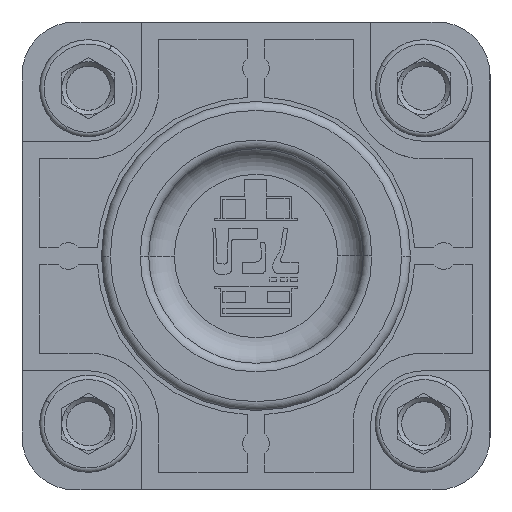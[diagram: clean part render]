
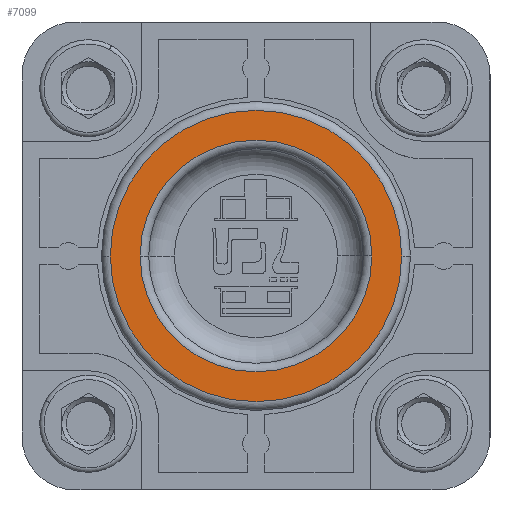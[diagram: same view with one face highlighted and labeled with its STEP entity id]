
A CAD part, left-side view. The second image highlights one B-rep face of the part: STEP entity #7099.
In plain terms, the highlighted planar face has unit normal (-1, 0, 0) as drawn and (1, 0, 0) by its records, which use the part's own axes.
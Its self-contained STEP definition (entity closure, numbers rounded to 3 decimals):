
#6787=CARTESIAN_POINT('Vertex',(137.,16.5,0.)) ;
#6794=CARTESIAN_POINT('Vertex',(137.,-16.5,0.)) ;
#6797=CARTESIAN_POINT('Axis2P3D Location',(137.,0.,0.)) ;
#6814=CARTESIAN_POINT('Axis2P3D Location',(137.,0.,0.)) ;
#7072=CARTESIAN_POINT('Axis2P3D Location',(137.,0.,0.)) ;
#7081=CARTESIAN_POINT('Axis2P3D Location',(137.,0.,0.)) ;
#7085=CARTESIAN_POINT('Vertex',(137.,-13.123,0.)) ;
#7087=CARTESIAN_POINT('Vertex',(137.,13.123,0.)) ;
#7090=CARTESIAN_POINT('Axis2P3D Location',(137.,0.,0.)) ;
#6798=DIRECTION('Axis2P3D Direction',(1.,-0.,0.)) ;
#6815=DIRECTION('Axis2P3D Direction',(1.,0.,-0.)) ;
#7073=DIRECTION('Axis2P3D Direction',(1.,0.,-0.)) ;
#7074=DIRECTION('Axis2P3D XDirection',(0.,1.,0.)) ;
#7082=DIRECTION('Axis2P3D Direction',(1.,0.,-0.)) ;
#7091=DIRECTION('Axis2P3D Direction',(1.,0.,-0.)) ;
#6799=AXIS2_PLACEMENT_3D('Circle Axis2P3D',#6797,#6798,$) ;
#6816=AXIS2_PLACEMENT_3D('Circle Axis2P3D',#6814,#6815,$) ;
#7075=AXIS2_PLACEMENT_3D('Plane Axis2P3D',#7072,#7073,#7074) ;
#7083=AXIS2_PLACEMENT_3D('Circle Axis2P3D',#7081,#7082,$) ;
#7092=AXIS2_PLACEMENT_3D('Circle Axis2P3D',#7090,#7091,$) ;
#7078=ORIENTED_EDGE('',*,*,#6818,.T.) ;
#7079=ORIENTED_EDGE('',*,*,#6801,.T.) ;
#7096=ORIENTED_EDGE('',*,*,#7089,.T.) ;
#7097=ORIENTED_EDGE('',*,*,#7094,.T.) ;
#7098=FACE_BOUND('',#7095,.T.) ;
#7099=ADVANCED_FACE('PartBody',(#7080,#7098),#7076,.T.) ;
#6800=CIRCLE('generated circle',#6799,16.5) ;
#6817=CIRCLE('generated circle',#6816,16.5) ;
#7084=CIRCLE('generated circle',#7083,13.123) ;
#7093=CIRCLE('generated circle',#7092,13.123) ;
#6801=EDGE_CURVE('',#6788,#6795,#6800,.T.) ;
#6818=EDGE_CURVE('',#6795,#6788,#6817,.T.) ;
#7089=EDGE_CURVE('',#7086,#7088,#7084,.F.) ;
#7094=EDGE_CURVE('',#7088,#7086,#7093,.F.) ;
#7077=EDGE_LOOP('',(#7078,#7079)) ;
#7095=EDGE_LOOP('',(#7096,#7097)) ;
#7080=FACE_OUTER_BOUND('',#7077,.T.) ;
#7076=PLANE('',#7075) ;
#6788=VERTEX_POINT('',#6787) ;
#6795=VERTEX_POINT('',#6794) ;
#7086=VERTEX_POINT('',#7085) ;
#7088=VERTEX_POINT('',#7087) ;
